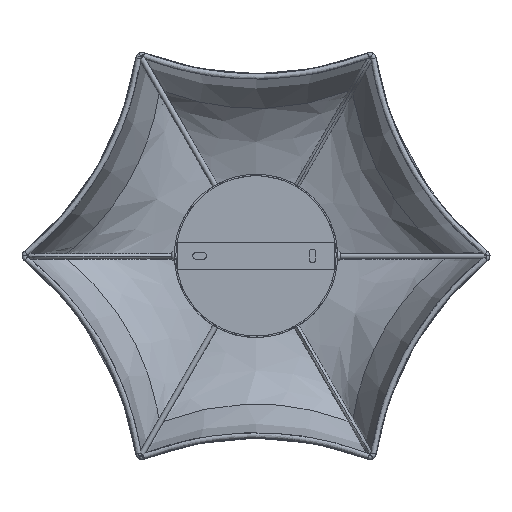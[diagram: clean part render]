
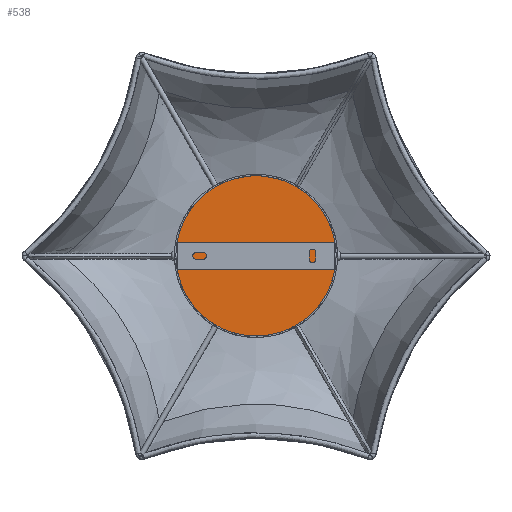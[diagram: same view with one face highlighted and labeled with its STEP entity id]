
A CAD part, top view. The second image highlights one B-rep face of the part: STEP entity #538.
In plain terms, the highlighted planar face has unit normal (0, 0, 1).
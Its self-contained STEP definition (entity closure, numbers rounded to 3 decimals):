
#325=FACE_BOUND('',#1703,.T.);
#538=ADVANCED_FACE('',(#1115,#325),#7662,.T.);
#1115=FACE_OUTER_BOUND('',#1702,.T.);
#1702=EDGE_LOOP('',(#2908,#2909));
#1703=EDGE_LOOP('',(#2910,#2911));
#2908=ORIENTED_EDGE('',*,*,#4845,.T.);
#2909=ORIENTED_EDGE('',*,*,#4847,.T.);
#2910=ORIENTED_EDGE('',*,*,#4853,.T.);
#2911=ORIENTED_EDGE('',*,*,#4884,.T.);
#4845=EDGE_CURVE('',#6774,#6771,#6025,.T.);
#4847=EDGE_CURVE('',#6771,#6774,#6027,.T.);
#4853=EDGE_CURVE('',#6778,#6797,#6033,.T.);
#4884=EDGE_CURVE('',#6797,#6778,#6050,.T.);
#6025=(
BOUNDED_CURVE()
B_SPLINE_CURVE(2,(#12870,#12871,#12872,#12873,#12874),.UNSPECIFIED.,.F.,
 .F.)
B_SPLINE_CURVE_WITH_KNOTS((3,2,3),(0.,92.675,185.349),
 .UNSPECIFIED.)
CURVE()
GEOMETRIC_REPRESENTATION_ITEM()
RATIONAL_B_SPLINE_CURVE((1.,0.707,1.,0.707,1.))
REPRESENTATION_ITEM('')
);
#6027=(
BOUNDED_CURVE()
B_SPLINE_CURVE(2,(#12880,#12881,#12882,#12883,#12884),.UNSPECIFIED.,.F.,
 .F.)
B_SPLINE_CURVE_WITH_KNOTS((3,2,3),(185.349,278.024,370.699),
 .UNSPECIFIED.)
CURVE()
GEOMETRIC_REPRESENTATION_ITEM()
RATIONAL_B_SPLINE_CURVE((1.,0.707,1.,0.707,1.))
REPRESENTATION_ITEM('')
);
#6033=(
BOUNDED_CURVE()
B_SPLINE_CURVE(2,(#12908,#12909,#12910,#12911,#12912),.UNSPECIFIED.,.F.,
 .F.)
B_SPLINE_CURVE_WITH_KNOTS((3,2,3),(-37.699,-28.274,
-18.85),.UNSPECIFIED.)
CURVE()
GEOMETRIC_REPRESENTATION_ITEM()
RATIONAL_B_SPLINE_CURVE((1.,0.707,1.,0.707,1.))
REPRESENTATION_ITEM('')
);
#6050=(
BOUNDED_CURVE()
B_SPLINE_CURVE(2,(#13054,#13055,#13056,#13057,#13058),.UNSPECIFIED.,.F.,
 .F.)
B_SPLINE_CURVE_WITH_KNOTS((3,2,3),(-18.85,-9.425,
0.),.UNSPECIFIED.)
CURVE()
GEOMETRIC_REPRESENTATION_ITEM()
RATIONAL_B_SPLINE_CURVE((1.,0.707,1.,0.707,1.))
REPRESENTATION_ITEM('')
);
#6771=VERTEX_POINT('',#12832);
#6774=VERTEX_POINT('',#12835);
#6778=VERTEX_POINT('',#12839);
#6797=VERTEX_POINT('',#12858);
#7662=PLANE('',#7899);
#7899=AXIS2_PLACEMENT_3D('',#12789,#8040,$);
#8040=DIRECTION('',(0.,0.,1.));
#12789=CARTESIAN_POINT('',(-552.199,-59.,48.5));
#12832=CARTESIAN_POINT('',(-552.199,0.,48.5));
#12835=CARTESIAN_POINT('',(-434.199,0.,48.5));
#12839=CARTESIAN_POINT('',(-487.199,0.,48.5));
#12858=CARTESIAN_POINT('',(-499.199,0.,48.5));
#12870=CARTESIAN_POINT('',(-434.199,0.,48.5));
#12871=CARTESIAN_POINT('',(-434.199,59.,48.5));
#12872=CARTESIAN_POINT('',(-493.199,59.,48.5));
#12873=CARTESIAN_POINT('',(-552.199,59.,48.5));
#12874=CARTESIAN_POINT('',(-552.199,0.,48.5));
#12880=CARTESIAN_POINT('',(-552.199,0.,48.5));
#12881=CARTESIAN_POINT('',(-552.199,-59.,48.5));
#12882=CARTESIAN_POINT('',(-493.199,-59.,48.5));
#12883=CARTESIAN_POINT('',(-434.199,-59.,48.5));
#12884=CARTESIAN_POINT('',(-434.199,0.,48.5));
#12908=CARTESIAN_POINT('',(-487.199,0.,48.5));
#12909=CARTESIAN_POINT('',(-487.199,-6.,48.5));
#12910=CARTESIAN_POINT('',(-493.199,-6.,48.5));
#12911=CARTESIAN_POINT('',(-499.199,-6.,48.5));
#12912=CARTESIAN_POINT('',(-499.199,0.,48.5));
#13054=CARTESIAN_POINT('',(-499.199,0.,48.5));
#13055=CARTESIAN_POINT('',(-499.199,6.,48.5));
#13056=CARTESIAN_POINT('',(-493.199,6.,48.5));
#13057=CARTESIAN_POINT('',(-487.199,6.,48.5));
#13058=CARTESIAN_POINT('',(-487.199,0.,48.5));
